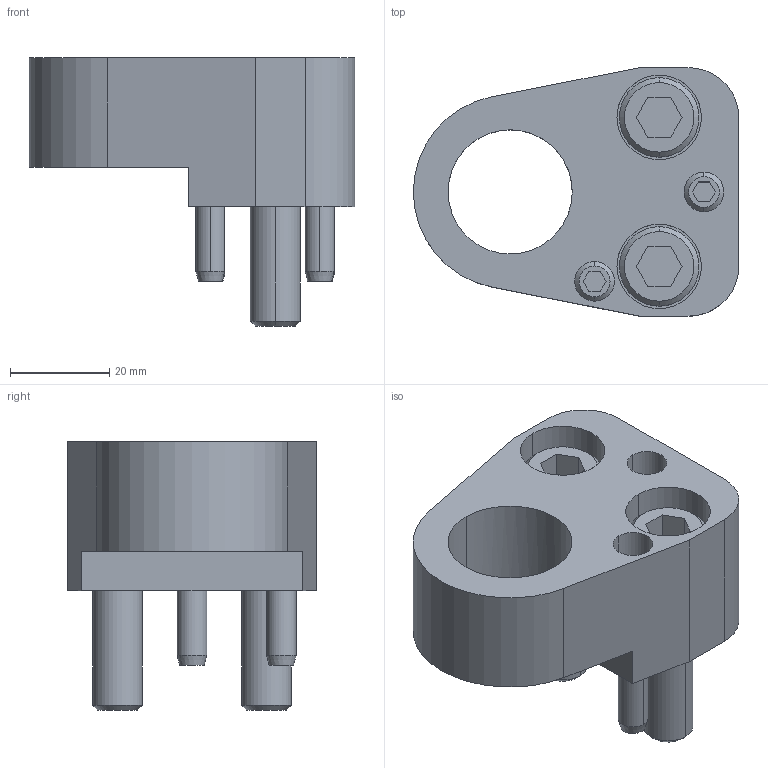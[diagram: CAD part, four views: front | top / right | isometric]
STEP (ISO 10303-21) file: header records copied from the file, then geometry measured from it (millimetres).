
FILE_DESCRIPTION(/* description */ (''),/* implementation_level */ '2;1');
FILE_NAME(/* name */ '3d_fpfr25_03784_r00.stp',/* time_stamp */ '2011-01-10T14:15:34+09:00',/* author */ ('MISUMI'),/* organization */ (''),/* preprocessor_version */ 'ST-DEVELOPER v11',/* originating_system */ 'UGS - NX 5.0',/* authorisation */ '');
FILE_SCHEMA (('CONFIG_CONTROL_DESIGN'));
Length unit declared in the file: millimetre
Products named in the file (1): 3d_fpfr25_03784_r00
Bounding box: 65.5 x 50 x 54 mm (x, y, z)
Volume: 61675.4 mm3; surface area: 21727.3 mm2
Topology: 7 solids, 7 shells, 134 faces, 298 edges, 191 vertices
Faces by surface type: plane 61, cylinder 47, cone 26
Entity records: 3858 total; most frequent: CARTESIAN_POINT 683, DIRECTION 682, ORIENTED_EDGE 596, EDGE_CURVE 298, AXIS2_PLACEMENT_3D 256, VERTEX_POINT 191, LINE 170, VECTOR 170
